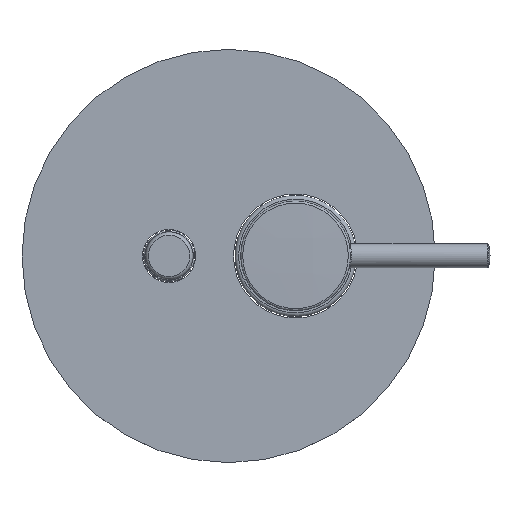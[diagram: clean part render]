
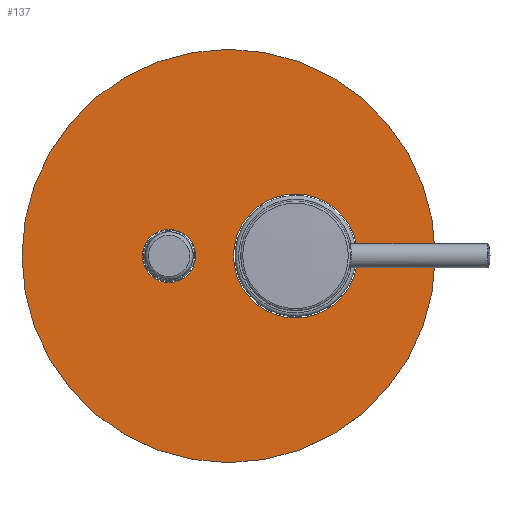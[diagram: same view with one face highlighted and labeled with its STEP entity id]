
A CAD part, top view. The second image highlights one B-rep face of the part: STEP entity #137.
In plain terms, the highlighted planar face has unit normal (0, 0, 1) as drawn and (0, 1, 0) by its records, which use the part's own axes.
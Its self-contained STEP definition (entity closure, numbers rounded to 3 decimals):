
#137 = ADVANCED_FACE ( 'NONE', ( #2822, #6570, #4715 ), #4675, .T. ) ;
#234 = AXIS2_PLACEMENT_3D ( 'NONE', #7211, #1516, #4050 ) ;
#436 = CARTESIAN_POINT ( 'NONE',  ( 0., 40.812, 52. ) ) ;
#917 = DIRECTION ( 'NONE',  ( -1., 0., 0. ) ) ;
#1002 = VERTEX_POINT ( 'NONE', #4128 ) ;
#1099 = ORIENTED_EDGE ( 'NONE', *, *, #7717, .T. ) ;
#1516 = DIRECTION ( 'NONE',  ( 0., -1., 0. ) ) ;
#1581 = ORIENTED_EDGE ( 'NONE', *, *, #3744, .T. ) ;
#1623 = DIRECTION ( 'NONE',  ( 0., -1., 0. ) ) ;
#2259 = CARTESIAN_POINT ( 'NONE',  ( -10.9, 40.812, 52. ) ) ;
#2822 = FACE_BOUND ( 'NONE', #5963, .T. ) ;
#2878 = CIRCLE ( 'NONE', #3157, 10.9 ) ;
#2968 = DIRECTION ( 'NONE',  ( -1., 0., 0. ) ) ;
#3157 = AXIS2_PLACEMENT_3D ( 'NONE', #436, #1623, #2968 ) ;
#3744 = EDGE_CURVE ( 'NONE', #5426, #5426, #2878, .T. ) ;
#4050 = DIRECTION ( 'NONE',  ( -1., 0., 0. ) ) ;
#4128 = CARTESIAN_POINT ( 'NONE',  ( -25.5, 40.812, 0. ) ) ;
#4145 = EDGE_CURVE ( 'NONE', #1002, #1002, #6231, .T. ) ;
#4186 = AXIS2_PLACEMENT_3D ( 'NONE', #7915, #6490, #4551 ) ;
#4199 = CARTESIAN_POINT ( 'NONE',  ( 0., 40.812, 27.5 ) ) ;
#4215 = CARTESIAN_POINT ( 'NONE',  ( -85., 40.812, 27.5 ) ) ;
#4551 = DIRECTION ( 'NONE',  ( -1., 0., 0. ) ) ;
#4675 = PLANE ( 'NONE',  #4186 ) ;
#4715 = FACE_OUTER_BOUND ( 'NONE', #5082, .T. ) ;
#5082 = EDGE_LOOP ( 'NONE', ( #1099 ) ) ;
#5377 = DIRECTION ( 'NONE',  ( 0., 1., 0. ) ) ;
#5426 = VERTEX_POINT ( 'NONE', #2259 ) ;
#5963 = EDGE_LOOP ( 'NONE', ( #1581 ) ) ;
#6103 = VERTEX_POINT ( 'NONE', #4215 ) ;
#6231 = CIRCLE ( 'NONE', #234, 25.5 ) ;
#6490 = DIRECTION ( 'NONE',  ( 0., 1., 0. ) ) ;
#6570 = FACE_BOUND ( 'NONE', #7283, .T. ) ;
#6963 = ORIENTED_EDGE ( 'NONE', *, *, #4145, .T. ) ;
#7124 = CIRCLE ( 'NONE', #8188, 85. ) ;
#7211 = CARTESIAN_POINT ( 'NONE',  ( 0., 40.812, 0. ) ) ;
#7283 = EDGE_LOOP ( 'NONE', ( #6963 ) ) ;
#7717 = EDGE_CURVE ( 'NONE', #6103, #6103, #7124, .T. ) ;
#7915 = CARTESIAN_POINT ( 'NONE',  ( 55., 40.812, -55. ) ) ;
#8188 = AXIS2_PLACEMENT_3D ( 'NONE', #4199, #5377, #917 ) ;
